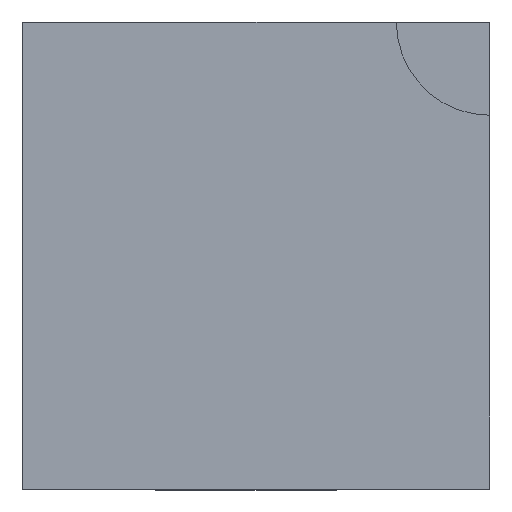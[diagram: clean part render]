
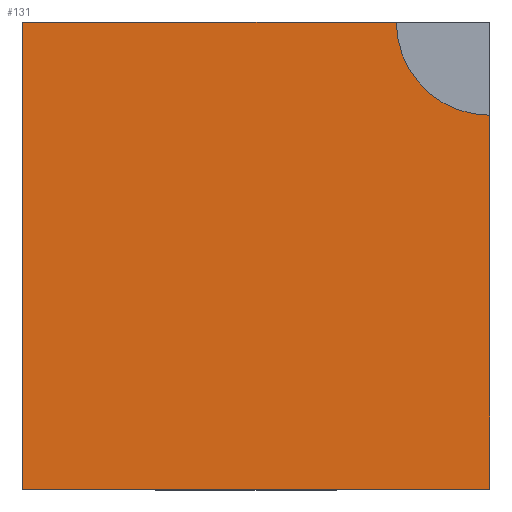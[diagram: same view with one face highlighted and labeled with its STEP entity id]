
A CAD part, top view. The second image highlights one B-rep face of the part: STEP entity #131.
In plain terms, the highlighted planar face has unit normal (0, 0, 1).
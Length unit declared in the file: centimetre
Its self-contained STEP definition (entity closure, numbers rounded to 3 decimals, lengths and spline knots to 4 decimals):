
#3 = VERTEX_POINT ( 'NONE', #351 ) ;
#13 = CARTESIAN_POINT ( 'NONE',  ( 800.4289, 1000., 1000. ) ) ;
#18 = DIRECTION ( 'NONE',  ( 0., -1., 0. ) ) ;
#25 = LINE ( 'NONE', #247, #489 ) ;
#45 = DIRECTION ( 'NONE',  ( 1., 0., 0. ) ) ;
#75 = LINE ( 'NONE', #678, #540 ) ;
#80 = DIRECTION ( 'NONE',  ( 1., 0., 0. ) ) ;
#90 = VECTOR ( 'NONE', #700, 100. ) ;
#98 = CARTESIAN_POINT ( 'NONE',  ( 1000., 1000., 1000. ) ) ;
#103 = EDGE_CURVE ( 'NONE', #401, #375, #25, .T. ) ;
#131 = ADVANCED_FACE ( 'NONE', ( #578 ), #693, .T. ) ;
#156 = CARTESIAN_POINT ( 'NONE',  ( 1000., 0., 1000. ) ) ;
#197 = DIRECTION ( 'NONE',  ( 0., 0., 1. ) ) ;
#202 = AXIS2_PLACEMENT_3D ( 'NONE', #436, #480, #45 ) ;
#206 = EDGE_LOOP ( 'NONE', ( #538, #653, #335, #329, #216 ) ) ;
#216 = ORIENTED_EDGE ( 'NONE', *, *, #559, .T. ) ;
#247 = CARTESIAN_POINT ( 'NONE',  ( 0., 1000., 1000. ) ) ;
#254 = LINE ( 'NONE', #364, #596 ) ;
#311 = DIRECTION ( 'NONE',  ( -1., 0., 0. ) ) ;
#329 = ORIENTED_EDGE ( 'NONE', *, *, #458, .T. ) ;
#335 = ORIENTED_EDGE ( 'NONE', *, *, #381, .T. ) ;
#351 = CARTESIAN_POINT ( 'NONE',  ( 1000., 800.4289, 1000. ) ) ;
#364 = CARTESIAN_POINT ( 'NONE',  ( 0., 0., 1000. ) ) ;
#375 = VERTEX_POINT ( 'NONE', #632 ) ;
#381 = EDGE_CURVE ( 'NONE', #375, #661, #75, .T. ) ;
#401 = VERTEX_POINT ( 'NONE', #13 ) ;
#425 = DIRECTION ( 'NONE',  ( 1., 0., 0. ) ) ;
#436 = CARTESIAN_POINT ( 'NONE',  ( 1000., 1000., 1000. ) ) ;
#458 = EDGE_CURVE ( 'NONE', #661, #697, #254, .T. ) ;
#478 = CARTESIAN_POINT ( 'NONE',  ( 0., 0., 1000. ) ) ;
#480 = DIRECTION ( 'NONE',  ( 0., 0., 1. ) ) ;
#489 = VECTOR ( 'NONE', #311, 100. ) ;
#511 = CIRCLE ( 'NONE', #202, 199.5711 ) ;
#538 = ORIENTED_EDGE ( 'NONE', *, *, #633, .F. ) ;
#540 = VECTOR ( 'NONE', #18, 100. ) ;
#559 = EDGE_CURVE ( 'NONE', #697, #3, #598, .T. ) ;
#578 = FACE_OUTER_BOUND ( 'NONE', #206, .T. ) ;
#596 = VECTOR ( 'NONE', #80, 100. ) ;
#598 = LINE ( 'NONE', #98, #90 ) ;
#632 = CARTESIAN_POINT ( 'NONE',  ( 0., 1000., 1000. ) ) ;
#633 = EDGE_CURVE ( 'NONE', #401, #3, #511, .T. ) ;
#653 = ORIENTED_EDGE ( 'NONE', *, *, #103, .T. ) ;
#661 = VERTEX_POINT ( 'NONE', #699 ) ;
#665 = AXIS2_PLACEMENT_3D ( 'NONE', #478, #197, #425 ) ;
#678 = CARTESIAN_POINT ( 'NONE',  ( 0., 1000., 1000. ) ) ;
#693 = PLANE ( 'NONE',  #665 ) ;
#697 = VERTEX_POINT ( 'NONE', #156 ) ;
#699 = CARTESIAN_POINT ( 'NONE',  ( 0., 0., 1000. ) ) ;
#700 = DIRECTION ( 'NONE',  ( 0., 1., 0. ) ) ;
